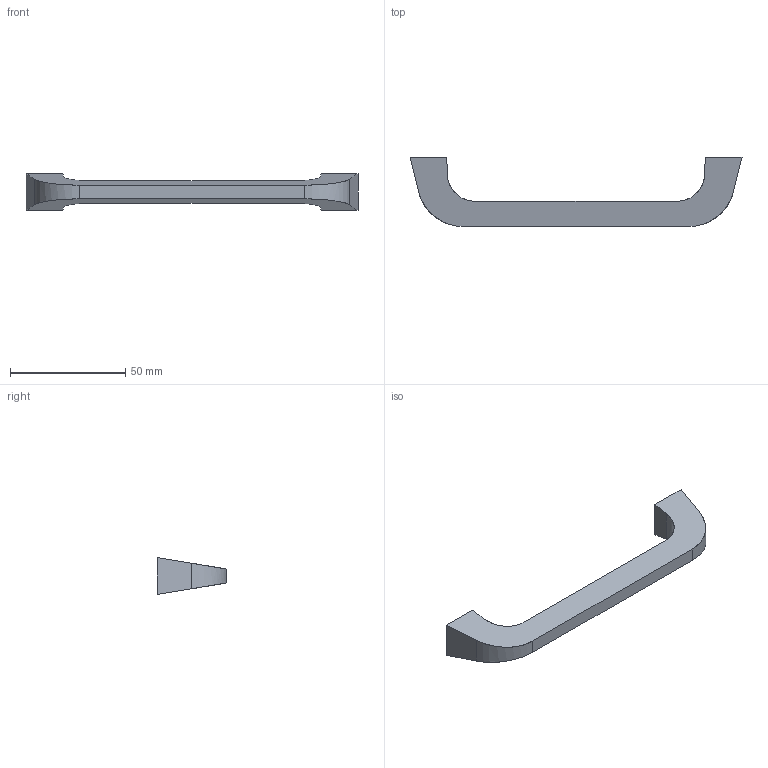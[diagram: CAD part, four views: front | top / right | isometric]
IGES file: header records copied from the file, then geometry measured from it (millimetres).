
Start section: Data from Parasolid IGES Translator 15.0.47, Copyright(c) 2006 Siemens P LM Software. All Rights Reserved.
Global section: file name: 9145273.igs; native system:  By UGS Corp.; preprocessor: XPlus GENERIC/IGES 3.0; author: Noname; organization: Noname; date: 20140122.165831; units: millimetre
Bounding box: 144 x 30 x 16 mm (x, y, z)
Surface area: 7533.1 mm2 (no closed solid volume)
Topology: 0 solids, 0 shells, 18 faces, 84 edges, 82 vertices
Faces by surface type: extrusion 12, revolution 6
